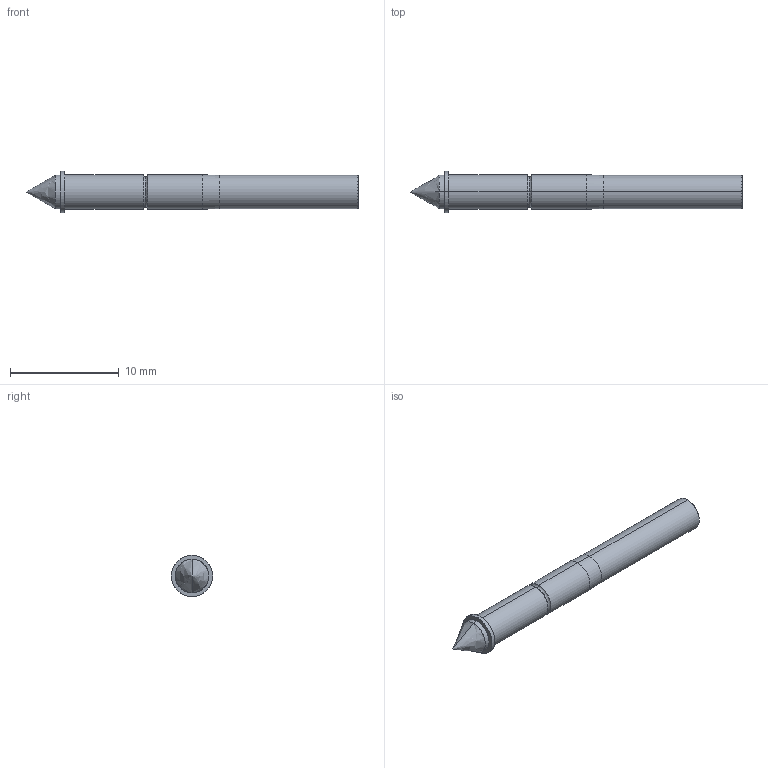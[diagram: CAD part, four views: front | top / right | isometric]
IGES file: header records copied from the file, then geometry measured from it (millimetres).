
Start section: SolidWorks IGES file using analytic representation for surfaces
Global section: file name: O:\PYLON\IGES FILES\P2550\P2550-0 FULL.IGS; native system: SolidWorks 2015; preprocessor: SolidWorks 2015; author: kgolden; date: 171020.110501; units: inch
Bounding box: 30.58 x 3.81 x 3.81 mm (x, y, z)
Surface area: 373.5 mm2 (no closed solid volume)
Topology: 0 solids, 0 shells, 30 faces, 416 edges, 412 vertices
Faces by surface type: revolution 18, bspline 12
